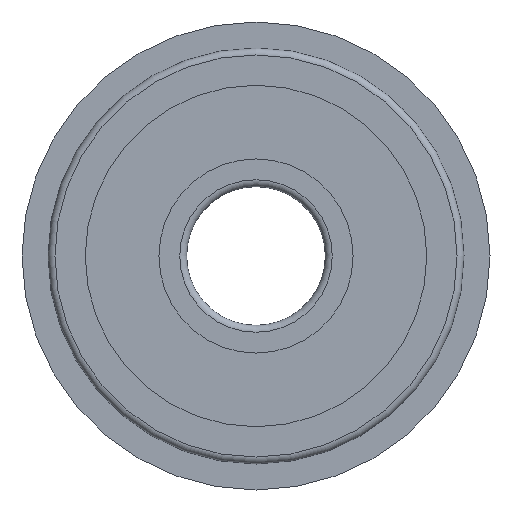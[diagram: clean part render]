
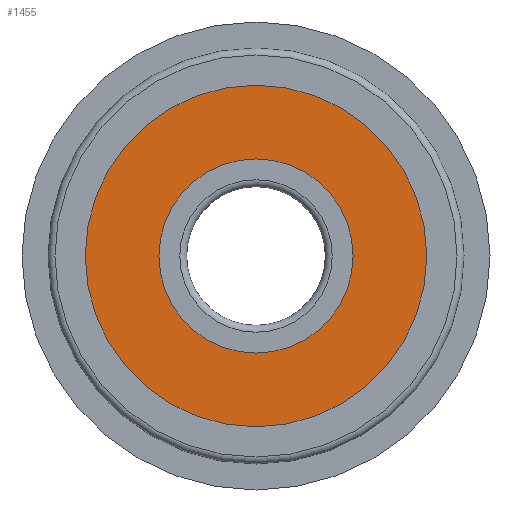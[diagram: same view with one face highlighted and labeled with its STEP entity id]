
A CAD part, left-side view. The second image highlights one B-rep face of the part: STEP entity #1455.
In plain terms, the highlighted planar face has unit normal (-1, 0, 0).
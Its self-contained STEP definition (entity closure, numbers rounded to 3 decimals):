
#1355 = CYLINDRICAL_SURFACE('',#1356,2.8);
#1356 = AXIS2_PLACEMENT_3D('',#1357,#1358,#1359);
#1357 = CARTESIAN_POINT('',(0.063,0.,0.));
#1358 = DIRECTION('',(1.,-0.,0.));
#1359 = DIRECTION('',(0.,1.,0.));
#1390 = CYLINDRICAL_SURFACE('',#1391,4.925);
#1391 = AXIS2_PLACEMENT_3D('',#1392,#1393,#1394);
#1392 = CARTESIAN_POINT('',(0.063,0.,0.));
#1393 = DIRECTION('',(1.,-0.,0.));
#1394 = DIRECTION('',(0.,1.,0.));
#1405 = EDGE_CURVE('',#1406,#1406,#1408,.T.);
#1406 = VERTEX_POINT('',#1407);
#1407 = CARTESIAN_POINT('',(0.063,2.8,0.));
#1408 = SURFACE_CURVE('',#1409,(#1414,#1421),.PCURVE_S1.);
#1409 = CIRCLE('',#1410,2.8);
#1410 = AXIS2_PLACEMENT_3D('',#1411,#1412,#1413);
#1411 = CARTESIAN_POINT('',(0.063,0.,0.));
#1412 = DIRECTION('',(-1.,0.,0.));
#1413 = DIRECTION('',(0.,1.,0.));
#1414 = PCURVE('',#1355,#1415);
#1415 = DEFINITIONAL_REPRESENTATION('',(#1416),#1420);
#1416 = LINE('',#1417,#1418);
#1417 = CARTESIAN_POINT('',(6.283,0.));
#1418 = VECTOR('',#1419,1.);
#1419 = DIRECTION('',(-1.,0.));
#1420 = ( GEOMETRIC_REPRESENTATION_CONTEXT(2) 
PARAMETRIC_REPRESENTATION_CONTEXT() REPRESENTATION_CONTEXT('2D SPACE',''
  ) );
#1421 = PCURVE('',#1422,#1427);
#1422 = PLANE('',#1423);
#1423 = AXIS2_PLACEMENT_3D('',#1424,#1425,#1426);
#1424 = CARTESIAN_POINT('',(0.063,0.,-2.8));
#1425 = DIRECTION('',(-1.,0.,0.));
#1426 = DIRECTION('',(0.,1.,0.));
#1427 = DEFINITIONAL_REPRESENTATION('',(#1428),#1432);
#1428 = CIRCLE('',#1429,2.8);
#1429 = AXIS2_PLACEMENT_2D('',#1430,#1431);
#1430 = CARTESIAN_POINT('',(0.,-2.8));
#1431 = DIRECTION('',(1.,0.));
#1432 = ( GEOMETRIC_REPRESENTATION_CONTEXT(2) 
PARAMETRIC_REPRESENTATION_CONTEXT() REPRESENTATION_CONTEXT('2D SPACE',''
  ) );
#1455 = ADVANCED_FACE('',(#1456,#1482),#1422,.T.);
#1456 = FACE_BOUND('',#1457,.T.);
#1457 = EDGE_LOOP('',(#1458));
#1458 = ORIENTED_EDGE('',*,*,#1459,.T.);
#1459 = EDGE_CURVE('',#1460,#1460,#1462,.T.);
#1460 = VERTEX_POINT('',#1461);
#1461 = CARTESIAN_POINT('',(0.063,4.925,0.));
#1462 = SURFACE_CURVE('',#1463,(#1468,#1475),.PCURVE_S1.);
#1463 = CIRCLE('',#1464,4.925);
#1464 = AXIS2_PLACEMENT_3D('',#1465,#1466,#1467);
#1465 = CARTESIAN_POINT('',(0.063,0.,0.));
#1466 = DIRECTION('',(-1.,0.,0.));
#1467 = DIRECTION('',(0.,1.,0.));
#1468 = PCURVE('',#1422,#1469);
#1469 = DEFINITIONAL_REPRESENTATION('',(#1470),#1474);
#1470 = CIRCLE('',#1471,4.925);
#1471 = AXIS2_PLACEMENT_2D('',#1472,#1473);
#1472 = CARTESIAN_POINT('',(0.,-2.8));
#1473 = DIRECTION('',(1.,0.));
#1474 = ( GEOMETRIC_REPRESENTATION_CONTEXT(2) 
PARAMETRIC_REPRESENTATION_CONTEXT() REPRESENTATION_CONTEXT('2D SPACE',''
  ) );
#1475 = PCURVE('',#1390,#1476);
#1476 = DEFINITIONAL_REPRESENTATION('',(#1477),#1481);
#1477 = LINE('',#1478,#1479);
#1478 = CARTESIAN_POINT('',(6.283,0.));
#1479 = VECTOR('',#1480,1.);
#1480 = DIRECTION('',(-1.,0.));
#1481 = ( GEOMETRIC_REPRESENTATION_CONTEXT(2) 
PARAMETRIC_REPRESENTATION_CONTEXT() REPRESENTATION_CONTEXT('2D SPACE',''
  ) );
#1482 = FACE_BOUND('',#1483,.T.);
#1483 = EDGE_LOOP('',(#1484));
#1484 = ORIENTED_EDGE('',*,*,#1405,.F.);
